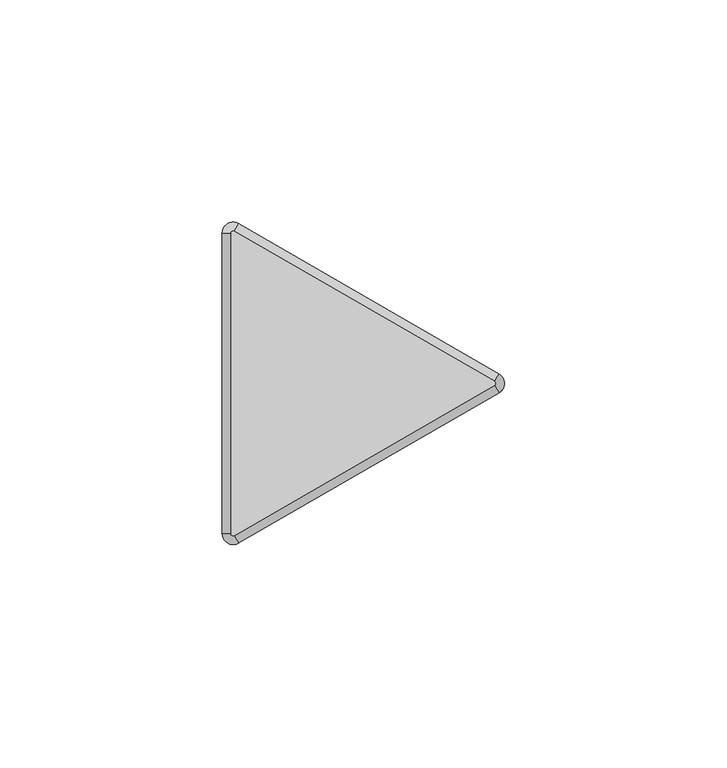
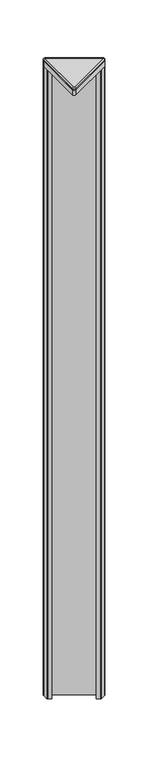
"""IFC4 building model written with IfcOpenShell, lengths in millimetres: furniture geometry, Steelcase - Answer Solution - Panel - 120deg Change-of-Height Trim - Thin : V Corner - 36H for 84H App."""

import ifcopenshell
import ifcopenshell.guid

model = None  # the IFC model being written
_history = None  # IfcOwnerHistory: only IFC2X3 demands one
_inside = {}  # id of a spatial element -> (the spatial element, [elements in it])
_under = {}  # id of a project, library or spatial element -> (it, [spatial elements below it])
_declared = {}  # id of a project -> (the project, [libraries it declares])
_typed = {}  # id of a type object -> (the type object, [elements of that type])
_made_of = {}  # id of a material, layer set ... -> (it, [elements and type objects made of it])


def new_model(schema):
    """Start an empty IFC model of exactly this schema.

    Asked for "IFC4X3", IfcOpenShell would pick the latest addendum, in which some entities
    have other attributes; the version numbers below select the first issue.
    IFC2X3 requires an IfcOwnerHistory on every rooted entity: one is made here for all.
    """
    global model, _history
    if schema == "IFC4X3":
        model = ifcopenshell.file(schema_version=(4, 3, 0, 0))
    else:
        model = ifcopenshell.file(schema=schema)
    _inside.clear()
    _under.clear()
    _declared.clear()
    _typed.clear()
    _made_of.clear()
    _history = None
    if model.schema == "IFC2X3":
        org = make("IfcOrganization", Name="unknown")
        user = make(
            "IfcPersonAndOrganization",
            ThePerson=make("IfcPerson", FamilyName="unknown"),
            TheOrganization=org,
        )
        app = make(
            "IfcApplication",
            ApplicationDeveloper=org,
            Version="unknown",
            ApplicationFullName="unknown",
            ApplicationIdentifier="unknown",
        )
        _history = make(
            "IfcOwnerHistory",
            OwningUser=user,
            OwningApplication=app,
            ChangeAction="ADDED",
            CreationDate=0,
        )
    return model


def make(cls, **values):
    """One entity of the class cls with the attributes given. An attribute that is None is left unset."""
    return model.create_entity(
        cls, **{name: value for name, value in values.items() if value is not None}
    )


def rooted(cls, **values):
    """An entity with a GlobalId (a new one), such as an element, a storey or a relation."""
    return make(cls, GlobalId=ifcopenshell.guid.new(), OwnerHistory=_history, **values)


def si_unit(unit_type, name, prefix=None):
    """IfcSIUnit, for example si_unit("LENGTHUNIT", "METRE", prefix="MILLI")."""
    return make("IfcSIUnit", UnitType=unit_type, Prefix=prefix, Name=name)


def assignment(units):
    """IfcUnitAssignment: the units of a project."""
    return None if units is None else make("IfcUnitAssignment", Units=units)


def point(xyz):
    """IfcCartesianPoint."""
    return None if xyz is None else make("IfcCartesianPoint", Coordinates=xyz)


def direction(xyz):
    """IfcDirection."""
    return None if xyz is None else make("IfcDirection", DirectionRatios=xyz)


def frame(location, z_axis=None, x_axis=None):
    """IfcAxis2Placement3D, a coordinate frame: its origin and axes. An axis left out is left unset."""
    return make(
        "IfcAxis2Placement3D",
        Location=point(location),
        Axis=direction(z_axis),
        RefDirection=direction(x_axis),
    )


def frame_2d(location, x_axis=None):
    """IfcAxis2Placement2D, a coordinate frame in the plane: its origin and x axis."""
    return make(
        "IfcAxis2Placement2D", Location=point(location), RefDirection=direction(x_axis)
    )


def origin():
    """The frame at (0, 0, 0) with its axes left unset."""
    return frame((0.0, 0.0, 0.0))


def place(relative_to, where):
    """IfcLocalPlacement: puts the frame where relative to a parent placement (None: the world)."""
    return make(
        "IfcLocalPlacement", PlacementRelTo=relative_to, RelativePlacement=where
    )


def context(
    kind, dimensions, precision=None, world=None, true_north=None, identifier=None
):
    """IfcGeometricRepresentationContext, for example the 3D "Model" context."""
    return make(
        "IfcGeometricRepresentationContext",
        ContextIdentifier=identifier,
        ContextType=kind,
        CoordinateSpaceDimension=dimensions,
        Precision=precision,
        WorldCoordinateSystem=world,
        TrueNorth=true_north,
    )


def project(units=None, contexts=None):
    """IfcProject with its units and contexts."""
    return rooted(
        "IfcProject",
        Name="project",
        RepresentationContexts=contexts,
        UnitsInContext=assignment(units),
    )


def spatial(cls, under=None, at=None, **own):
    """A site, building, storey or space (cls), placed at a placement, below another one or the project."""
    s = rooted(cls, ObjectPlacement=at, **own)
    if under is not None:
        _under.setdefault(under.id(), (under, []))[1].append(s)
    return s


def polyline(points):
    """IfcPolyline through the points."""
    return make("IfcPolyline", Points=[point(p) for p in points])


def circle_curve(where, radius):
    """IfcCircle in the frame where."""
    return make("IfcCircle", Position=where, Radius=radius)


def ellipse_curve(where, semi_axis1, semi_axis2):
    """IfcEllipse in the frame where."""
    return make(
        "IfcEllipse", Position=where, SemiAxis1=semi_axis1, SemiAxis2=semi_axis2
    )


def trimmed(basis, trim1, trim2, sense, master):
    """IfcTrimmedCurve: the piece of a basis curve between two trims."""
    return make(
        "IfcTrimmedCurve",
        BasisCurve=basis,
        Trim1=trim1,
        Trim2=trim2,
        SenseAgreement=sense,
        MasterRepresentation=master,
    )


def segment(curve, same_sense, transition):
    """IfcCompositeCurveSegment."""
    return make(
        "IfcCompositeCurveSegment",
        Transition=transition,
        SameSense=same_sense,
        ParentCurve=curve,
    )


def composite_curve(segments, self_intersect=None):
    """IfcCompositeCurve: segments joined end to end."""
    return make("IfcCompositeCurve", Segments=segments, SelfIntersect=self_intersect)


def outline(outer, holes=None, kind="AREA"):
    """IfcArbitraryClosedProfileDef: a profile drawn as a closed curve; with holes, ...WithVoids."""
    if holes is None:
        return make("IfcArbitraryClosedProfileDef", ProfileType=kind, OuterCurve=outer)
    return make(
        "IfcArbitraryProfileDefWithVoids",
        ProfileType=kind,
        OuterCurve=outer,
        InnerCurves=holes,
    )


def extrude(swept, where, along, depth):
    """IfcExtrudedAreaSolid: the profile swept, set in the frame where, extruded along a direction by depth."""
    return make(
        "IfcExtrudedAreaSolid",
        SweptArea=swept,
        Position=where,
        ExtrudedDirection=direction(along),
        Depth=depth,
    )


def shape(context_of_items, identifier, shape_type, items):
    """IfcShapeRepresentation: the items that make up one representation, for example the "Body"."""
    return make(
        "IfcShapeRepresentation",
        ContextOfItems=context_of_items,
        RepresentationIdentifier=identifier,
        RepresentationType=shape_type,
        Items=items,
    )


def source(mapping_origin, context_of_items, identifier, shape_type, items):
    """IfcRepresentationMap: a shape defined once, which mapped items show again and again."""
    return make(
        "IfcRepresentationMap",
        MappingOrigin=mapping_origin,
        MappedRepresentation=shape(context_of_items, identifier, shape_type, items),
    )


def transform(
    local_origin,
    x_axis=None,
    y_axis=None,
    z_axis=None,
    scale=None,
    scale2=None,
    scale3=None,
    uniform=True,
):
    """IfcCartesianTransformationOperator3D, or its non-uniform kind. x_axis, y_axis, z_axis: its Axis1, 2, 3."""
    if uniform:
        return make(
            "IfcCartesianTransformationOperator3D",
            Axis1=direction(x_axis),
            Axis2=direction(y_axis),
            LocalOrigin=point(local_origin),
            Scale=scale,
            Axis3=direction(z_axis),
        )
    return make(
        "IfcCartesianTransformationOperator3DnonUniform",
        Axis1=direction(x_axis),
        Axis2=direction(y_axis),
        LocalOrigin=point(local_origin),
        Scale=scale,
        Axis3=direction(z_axis),
        Scale2=scale2,
        Scale3=scale3,
    )


def mapped(mapping_source, mapping_target):
    """IfcMappedItem: shows the shape of a source again, moved by a transform."""
    return make(
        "IfcMappedItem", MappingSource=mapping_source, MappingTarget=mapping_target
    )


def made_of(thing, what):
    """Note that an element or type object is made of a material, layer set ...; save() writes the relation."""
    if what is not None:
        _made_of.setdefault(what.id(), (what, []))[1].append(thing)
    return thing


def element(
    cls,
    number,
    at=None,
    inside=None,
    cuts=None,
    type_object=None,
    material=None,
    context=None,
    identifier="Body",
    shape_type=None,
    held_by="IfcProductDefinitionShape",
    body=None,
    shapes=None,
    **own,
):
    """One element of the class cls, such as IfcWall. Its Tag is "e" and its number.

    at: its placement. inside: the storey or other place that contains it. cuts: it is an
    opening in that element (IfcRelVoidsElement). A single representation is given by context,
    identifier, shape_type and body (its items); several are given by shapes. held_by: the class
    of the entity that holds the representations. save() writes the other relations.
    """
    e = rooted(cls, Tag="e%d" % number, ObjectPlacement=at, **own)
    if body is not None:
        shapes = [shape(context, identifier, shape_type, body)]
    if shapes is not None:
        e.Representation = make(held_by, Representations=shapes)
    if inside is not None:
        _inside.setdefault(inside.id(), (inside, []))[1].append(e)
    if cuts is not None:
        rooted(
            "IfcRelVoidsElement", RelatingBuildingElement=cuts, RelatedOpeningElement=e
        )
    if type_object is not None:
        _typed.setdefault(type_object.id(), (type_object, []))[1].append(e)
    return made_of(e, material)


def aggregate(whole, parts):
    """IfcRelAggregates: a whole, such as a stair, and the parts it consists of."""
    return rooted("IfcRelAggregates", RelatingObject=whole, RelatedObjects=parts)


def save(model, path):
    """Write the relations noted so far, then the file.

    IfcRelAggregates (storeys below a building ...), IfcRelContainedInSpatialStructure (elements
    in a storey), IfcRelDefinesByType, IfcRelAssociatesMaterial and IfcRelDeclares: one each for
    every whole, place, type object, material and project.
    """
    for whole, parts in _under.values():
        aggregate(whole, parts)
    for where, things in _inside.values():
        rooted(
            "IfcRelContainedInSpatialStructure",
            RelatedElements=things,
            RelatingStructure=where,
        )
    for kind, things in _typed.values():
        rooted("IfcRelDefinesByType", RelatedObjects=things, RelatingType=kind)
    for what, things in _made_of.values():
        rooted("IfcRelAssociatesMaterial", RelatedObjects=things, RelatingMaterial=what)
    for by, libraries in _declared.values():
        rooted("IfcRelDeclares", RelatingContext=by, RelatedDefinitions=libraries)
    model.write(path)


def plane_surface(at):
    """IfcPlane: the flat surface through the origin of the frame at, square to its z axis."""
    return make("IfcPlane", Position=at)


def cylinder_surface(at, radius):
    """IfcCylindricalSurface: all points at the distance radius from the z axis of the frame at."""
    return make("IfcCylindricalSurface", Position=at, Radius=radius)


def revolved_surface(curve, axis_point, axis_direction):
    """IfcSurfaceOfRevolution: the curve turned about the line through axis_point along axis_direction."""
    return make(
        "IfcSurfaceOfRevolution",
        SweptCurve=make("IfcArbitraryOpenProfileDef", ProfileType="CURVE", Curve=curve),
        AxisPosition=make("IfcAxis1Placement", Location=point(axis_point), Axis=direction(axis_direction)),
    )


def advanced_brep(points, edges, surfaces, faces):
    """IfcAdvancedBrep: a solid bounded by faces that lie on surfaces and meet in shared edges.

    An edge is (start, end): straight between two places in points (the first is 0);
    or (start, end, curve); or (start, end, curve, False) where it runs against its curve.
    A face is (place in surfaces, loops), or (place, loops, False) where it looks against
    its surface's normal. A loop lists edges by number (the first is 1), with a minus sign
    where the edge is run from its end to its start. The first loop is the outer one.
    """
    corners = [point(p) for p in points]
    vertices = [make("IfcVertexPoint", VertexGeometry=c) for c in corners]
    made = []
    for start, end, *more in edges:
        made.append(
            make(
                "IfcEdgeCurve",
                EdgeStart=vertices[start],
                EdgeEnd=vertices[end],
                EdgeGeometry=more[0] if more else make("IfcPolyline", Points=[corners[start], corners[end]]),
                SameSense=more[1] if len(more) > 1 else True,
            )
        )
    hull = []
    for where, loops, *sense in faces:
        bounds = []
        for j, loop in enumerate(loops):
            ring = [make("IfcOrientedEdge", EdgeElement=made[abs(k) - 1], Orientation=k > 0) for k in loop]
            bounds.append(
                make(
                    "IfcFaceOuterBound" if j == 0 else "IfcFaceBound",
                    Bound=make("IfcEdgeLoop", EdgeList=ring),
                    Orientation=True,
                )
            )
        hull.append(make("IfcAdvancedFace", Bounds=bounds, FaceSurface=surfaces[where], SameSense=sense[0] if sense else True))
    return make("IfcAdvancedBrep", Outer=make("IfcClosedShell", CfsFaces=hull))


def furniture_9873993e(model_context):
    return source(origin(), model_context, "Body", "SolidModel", [
        advanced_brep(
        [(-10.518645, -37.3335529, 2138.0628978), (-14.2052101, -35.2051135, 2138.0628978), (-14.2052101, -35.2051135, 2137.1164663), (-10.518645, -37.3335529, 2137.1164663), (-11.46175, -35.7000471, 2139.95), (-12.319, -35.2051135, 2139.95), (-11.46175, -35.7000471, 2137.1164663), (-12.319, -35.2051135, 2137.1164663), (48.0429908, -3.5229767, 2137.1164663), (48.0429908, -3.5229767, 2138.0628978), (47.0998858, -1.8894709, 2139.95), (47.0998858, -1.8894709, 2137.1164663), (48.0429908, 0.733902, 2138.0628978), (48.0429908, 0.733902, 2137.1164663), (47.0998858, -0.8996038, 2139.95), (47.0998858, -0.8996038, 2137.1164663), (-10.518645, 34.5444782, 2137.1164663), (-14.2052101, 32.4160388, 2137.1164663), (-11.46175, 32.9109723, 2137.1164663), (-12.319, 32.4160388, 2137.1164663), (-10.518645, 34.5444782, 2138.0628978), (-11.46175, 32.9109723, 2139.95), (-14.2052101, 32.4160388, 2138.0628978), (-12.319, 32.4160388, 2139.95)],
        [
            (0, 1, circle_curve(frame((-11.7475, -35.2051135, 2138.0628978), z_axis=(0.0, 0.0, -1.0), x_axis=(-1.0, 0.0, 0.0)), 2.4577101)),
            (1, 2),
            (2, 3, circle_curve(frame((-11.7475, -35.2051135, 2137.1164663), z_axis=(0.0, 0.0, 1.0), x_axis=(-1.0, 0.0, 0.0)), 2.4577101)),
            (3, 0),
            (4, 5, circle_curve(frame((-11.7475, -35.2051135, 2139.95), z_axis=(0.0, 0.0, -1.0), x_axis=(-1.0, 0.0, 0.0)), 0.5715)),
            (5, 1, circle_curve(frame((-12.3181076, -35.2051135, 2138.0628978), z_axis=(0.0, -1.0, 0.0), x_axis=(1.0, 0.0, 0.0)), 1.8871024)),
            (0, 4, circle_curve(frame((-11.4621962, -35.6992743, 2138.0628978), z_axis=(-0.8660254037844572, -0.49999999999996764, 0.0), x_axis=(-0.49999999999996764, 0.8660254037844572, 0.0)), 1.8871024)),
            (6, 7, circle_curve(frame((-11.7475, -35.2051135, 2137.1164663), z_axis=(0.0, 0.0, -1.0), x_axis=(-1.0, 0.0, 0.0)), 0.5715)),
            (7, 5),
            (4, 6),
            (3, 8),
            (8, 9),
            (9, 0),
            (9, 10, circle_curve(frame((47.0994396, -1.8886981, 2138.0628978), z_axis=(-0.8660254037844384, -0.5000000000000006, 0.0), x_axis=(-0.5000000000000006, 0.8660254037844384, 0.0)), 1.8871024)),
            (10, 4),
            (10, 11),
            (11, 6),
            (12, 9, circle_curve(frame((46.8141358, -1.3945374, 2138.0628978), z_axis=(0.0, 0.0, -1.0), x_axis=(0.4999999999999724, -0.8660254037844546, 0.0)), 2.4577101)),
            (8, 13, circle_curve(frame((46.8141358, -1.3945374, 2137.1164663), z_axis=(0.0, 0.0, 1.0), x_axis=(0.4999999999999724, -0.8660254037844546, 0.0)), 2.4577101)),
            (13, 12),
            (14, 10, circle_curve(frame((46.8141358, -1.3945374, 2139.95), z_axis=(0.0, 0.0, -1.0), x_axis=(0.4999999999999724, -0.8660254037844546, 0.0)), 0.5715)),
            (12, 14, circle_curve(frame((47.0994396, -0.9003766, 2138.0628978), z_axis=(0.8660254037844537, -0.49999999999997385, 0.0), x_axis=(-0.49999999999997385, -0.8660254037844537, 0.0)), 1.8871024)),
            (15, 11, circle_curve(frame((46.8141358, -1.3945374, 2137.1164663), z_axis=(0.0, 0.0, -1.0), x_axis=(0.4999999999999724, -0.8660254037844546, 0.0)), 0.5715)),
            (14, 15),
            (16, 13),
            (2, 17),
            (17, 16, circle_curve(frame((-11.7475, 32.4160388, 2137.1164663), z_axis=(0.0, 0.0, -1.0), x_axis=(0.500000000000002, 0.8660254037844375, 0.0)), 2.4577101)),
            (15, 18),
            (18, 19, circle_curve(frame((-11.7475, 32.4160388, 2137.1164663), z_axis=(0.0, 0.0, 1.0), x_axis=(0.500000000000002, 0.8660254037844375, 0.0)), 0.5715)),
            (19, 7),
            (16, 20),
            (20, 12),
            (20, 21, circle_curve(frame((-11.4621962, 32.9101995, 2138.0628978), z_axis=(0.8660254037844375, -0.5000000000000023, 0.0), x_axis=(-0.5000000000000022, -0.8660254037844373, 0.0)), 1.8871024)),
            (21, 14),
            (21, 18),
            (22, 20, circle_curve(frame((-11.7475, 32.4160388, 2138.0628978), z_axis=(0.0, 0.0, -1.0), x_axis=(0.500000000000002, 0.8660254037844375, 0.0)), 2.4577101)),
            (17, 22),
            (23, 21, circle_curve(frame((-11.7475, 32.4160388, 2139.95), z_axis=(0.0, 0.0, -1.0), x_axis=(0.500000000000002, 0.8660254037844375, 0.0)), 0.5715)),
            (22, 23, circle_curve(frame((-12.3181076, 32.4160388, 2138.0628978), z_axis=(0.0, 1.0, 0.0), x_axis=(1.0, 0.0, 0.0)), 1.8871024)),
            (23, 19),
            (1, 22),
            (5, 23),
        ],
        [
            cylinder_surface(frame((-11.7475, -35.2051135, 0.0), z_axis=(0.0, 0.0, 1.0), x_axis=(-1.0, 0.0, 0.0)), 2.4577101),
            revolved_surface(trimmed(ellipse_curve(frame((-12.3181076, -35.2051135, 2138.0628978), z_axis=(0.0, 1.0, 0.0), x_axis=(1.0, 0.0, 0.0)), 1.8871024, 1.8871024), [point((-14.2052101, -35.2051135, 2138.0628978))], [point((-12.319, -35.2051135, 2139.95))], True, "CARTESIAN"), (-11.7475, -35.2051135, 0.0), (0.0, 0.0, 1.0)),
            revolved_surface(polyline([(-12.319, -35.2051135, 2139.95), (-12.319, -35.2051135, 2137.1164663)]), (-11.7475, -35.2051135, 0.0), (0.0, 0.0, 1.0)),
            plane_surface(frame((-10.518645, -37.3335529, 2137.1164663), z_axis=(0.49999999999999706, -0.8660254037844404, 0.0), x_axis=(0.8660254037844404, 0.49999999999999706, 0.0))),
            cylinder_surface(frame((-11.4621962, -35.6992743, 2138.0628978), z_axis=(-0.8660254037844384, -0.5000000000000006, 0.0), x_axis=(-0.5000000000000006, 0.8660254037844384, 0.0)), 1.8871024),
            plane_surface(frame((-11.46175, -35.7000471, 2139.95), z_axis=(-0.500000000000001, 0.8660254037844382, 0.0), x_axis=(0.8660254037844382, 0.500000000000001, 0.0))),
            cylinder_surface(frame((46.8141358, -1.3945374, 0.0), z_axis=(0.0, 0.0, 1.0), x_axis=(0.4999999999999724, -0.8660254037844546, 0.0)), 2.4577101),
            revolved_surface(trimmed(ellipse_curve(frame((47.0994396, -1.8886981, 2138.0628978), z_axis=(-0.8660254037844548, -0.499999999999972, 0.0), x_axis=(-0.499999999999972, 0.8660254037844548, 0.0)), 1.8871024, 1.8871024), [point((48.0429908, -3.5229767, 2138.0628978))], [point((47.0998858, -1.8894709, 2139.95))], True, "CARTESIAN"), (46.8141358, -1.3945374, 0.0), (0.0, 0.0, 1.0)),
            revolved_surface(polyline([(47.09988579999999, -1.8894709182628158, 2139.95), (47.09988579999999, -1.8894709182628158, 2137.1164663)]), (46.8141358, -1.3945374, 0.0), (0.0, 0.0, 1.0)),
            plane_surface(frame((47.0998858, -0.8996038, 2137.1164663), z_axis=(0.0, 0.0, -1.0), x_axis=(-0.8660254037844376, 0.5000000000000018, 0.0))),
            plane_surface(frame((48.0429908, 0.733902, 2137.1164663), z_axis=(0.49999999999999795, 0.8660254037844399, 0.0), x_axis=(-0.8660254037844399, 0.49999999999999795, 0.0))),
            cylinder_surface(frame((47.0994396, -0.9003766, 2138.0628978), z_axis=(0.8660254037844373, -0.5000000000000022, 0.0), x_axis=(-0.5000000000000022, -0.8660254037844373, 0.0)), 1.8871024),
            plane_surface(frame((47.0998858, -0.8996038, 2139.95), z_axis=(-0.5000000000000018, -0.8660254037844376, 0.0), x_axis=(-0.8660254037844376, 0.5000000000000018, 0.0))),
            cylinder_surface(frame((-11.7475, 32.4160388, 0.0), z_axis=(0.0, 0.0, 1.0), x_axis=(0.500000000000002, 0.8660254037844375, 0.0)), 2.4577101),
            revolved_surface(trimmed(ellipse_curve(frame((-11.4621962, 32.9101995, 2138.0628978), z_axis=(0.866025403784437, -0.5000000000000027, 0.0), x_axis=(-0.5000000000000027, -0.866025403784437, 0.0)), 1.8871024, 1.8871024), [point((-10.518645, 34.5444782, 2138.0628978))], [point((-11.46175, 32.9109723, 2139.95))], True, "CARTESIAN"), (-11.7475, 32.4160388, 0.0), (0.0, 0.0, 1.0)),
            revolved_surface(polyline([(-11.461749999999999, 32.91097231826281, 2139.95), (-11.461749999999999, 32.91097231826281, 2137.1164663)]), (-11.7475, 32.4160388, 0.0), (0.0, 0.0, 1.0)),
            plane_surface(frame((-14.2052101, 32.4160388, 2137.1164663), z_axis=(-1.0, 0.0, 0.0), x_axis=(0.0, -1.0, 0.0))),
            cylinder_surface(frame((-12.3181076, 32.4160388, 2138.0628978), z_axis=(0.0, 1.0, 0.0), x_axis=(1.0, 0.0, 0.0)), 1.8871024),
            plane_surface(frame((-12.319, 32.4160388, 2139.95), z_axis=(1.0, 0.0, 0.0), x_axis=(0.0, -1.0, 0.0))),
        ],
        [
            (0, [[1, 2, 3, 4]]),
            (1, [[5, 6, -1, 7]]),
            (2, [[8, 9, -5, 10]]),
            (3, [[-4, 11, 12, 13]]),
            (4, [[-7, -13, 14, 15]]),
            (5, [[-10, -15, 16, 17]]),
            (6, [[18, -12, 19, 20]]),
            (7, [[21, -14, -18, 22]]),
            (8, [[23, -16, -21, 24]]),
            (9, [[25, -19, -11, -3, 26, 27], [-8, -17, -23, 28, 29, 30]]),
            (10, [[-20, -25, 31, 32]]),
            (11, [[-22, -32, 33, 34]]),
            (12, [[-24, -34, 35, -28]]),
            (13, [[36, -31, -27, 37]]),
            (14, [[38, -33, -36, 39]]),
            (15, [[-29, -35, -38, 40]]),
            (16, [[-37, -26, -2, 41]]),
            (17, [[-39, -41, -6, 42]]),
            (18, [[-40, -42, -9, -30]]),
        ],
    ),
        extrude(outline(composite_curve([segment(trimmed(circle_curve(frame_2d((46.8261011, -1.3945374)), 0.5655173), [point((47.1088598, -0.904785))], [point((47.1088598, -1.8842897))], False, "CARTESIAN"), True, "CONTINUOUS"), segment(polyline([(47.1088598, -1.8842897), (-11.4505119, -35.6935587)]), True, "CONTINUOUS"), segment(trimmed(circle_curve(frame_2d((-11.7400079, -35.1921369)), 0.5789921), [point((-11.4505119, -35.6935587))], [point((-12.319, -35.1921369))], False, "CARTESIAN"), True, "CONTINUOUS"), segment(polyline([(-12.319, -35.1921369), (-12.319, 32.3985888)]), True, "CONTINUOUS"), segment(trimmed(circle_curve(frame_2d((-11.7374252, 32.3985888)), 0.5815748), [point((-12.319, 32.3985888))], [point((-11.4466378, 32.9022473))], False, "CARTESIAN"), True, "CONTINUOUS"), segment(polyline([(-11.4466378, 32.9022473), (47.1088598, -0.904785)]), True, "CONTINUOUS")], self_intersect=False)), frame((0.0, 0.0, 2137.1164663), z_axis=(0.0, 0.0, 1.0), x_axis=(1.0, 0.0, 0.0)), (0.0, 0.0, 1.0), 2.8335337),
        extrude(outline(composite_curve([segment(trimmed(circle_curve(frame_2d((47.9608454, -1.3945374)), 1.2935425), [point((48.6076166, -0.2742967))], [point((48.6076166, -2.514778))], False, "CARTESIAN"), True, "CONTINUOUS"), segment(polyline([(48.6076166, -2.514778), (41.722656, -6.4898119)]), True, "CONTINUOUS"), segment(trimmed(circle_curve(frame_2d((41.0991304, -5.4098338)), 1.2470513), [point((41.722656, -6.4898119))], [point((40.4756048, -6.4898119))], False, "CARTESIAN"), True, "CONTINUOUS"), segment(polyline([(40.4756048, -6.4898119), (36.3239304, -4.0928416), (36.7811304, -3.300948), (41.0991304, -5.7939464), (47.3502407, -2.1848662)]), True, "CONTINUOUS"), segment(trimmed(circle_curve(frame_2d((46.8939441, -1.3945374)), 0.9125932), [point((47.3502407, -2.1848662))], [point((47.3502407, -0.6042085))], True, "CARTESIAN"), True, "CONTINUOUS"), segment(polyline([(47.3502407, -0.6042085), (-11.3312768, 33.2755814)]), True, "CONTINUOUS"), segment(trimmed(circle_curve(frame_2d((-11.7875179, 32.4853487)), 0.9124821), [point((-11.3312768, 33.2755814))], [point((-12.7, 32.4853487))], True, "CARTESIAN"), True, "CONTINUOUS"), segment(polyline([(-12.7, 32.4853487), (-12.7, 25.266996), (-8.382, 22.7739975), (-8.8392, 21.9821039), (-12.9583282, 24.3602837)]), True, "CONTINUOUS"), segment(trimmed(circle_curve(frame_2d((-12.3022565, 25.4966333)), 1.3121435), [point((-12.9583282, 24.3602837))], [point((-13.6144, 25.4966333))], False, "CARTESIAN"), True, "CONTINUOUS"), segment(polyline([(-13.6144, 25.4966333), (-13.6144, 33.3957138)]), True, "CONTINUOUS"), segment(trimmed(circle_curve(frame_2d((-12.3131174, 33.3957138)), 1.3012826), [point((-13.6144, 33.3957138))], [point((-11.6624761, 34.5226576))], False, "CARTESIAN"), True, "CONTINUOUS"), segment(polyline([(-11.6624761, 34.5226576), (48.6076166, -0.2742967)]), True, "CONTINUOUS")], self_intersect=False)), frame((0.0, 0.0, 1225.55), z_axis=(0.0, 0.0, 1.0), x_axis=(1.0, 0.0, 0.0)), (0.0, 0.0, 1.0), 904.24),
        extrude(outline(composite_curve([segment(trimmed(circle_curve(frame_2d((46.8140443, -1.3945374)), 2.4577558), [point((48.0429222, 0.7339416))], [point((48.0429222, -3.5230163))], False, "CARTESIAN"), True, "CONTINUOUS"), segment(polyline([(48.0429222, -3.5230163), (-10.518058, -37.333214)]), True, "CONTINUOUS"), segment(trimmed(circle_curve(frame_2d((-11.7471087, -35.2044357)), 2.4581014), [point((-10.518058, -37.333214))], [point((-14.2052101, -35.2044357))], False, "CARTESIAN"), True, "CONTINUOUS"), segment(polyline([(-14.2052101, -35.2044357), (-14.2052101, 32.4160388)]), True, "CONTINUOUS"), segment(trimmed(circle_curve(frame_2d((-11.7475, 32.4160388)), 2.4577101), [point((-14.2052101, 32.4160388))], [point((-10.518645, 34.5444782))], False, "CARTESIAN"), True, "CONTINUOUS"), segment(polyline([(-10.518645, 34.5444782), (48.0429222, 0.7339416)]), True, "CONTINUOUS")], self_intersect=False)), frame((0.0, 0.0, 2129.79), z_axis=(0.0, 0.0, 1.0), x_axis=(1.0, 0.0, 0.0)), (0.0, 0.0, 1.0), 7.3264663),
    ])


if __name__ == "__main__":
    model = new_model("IFC4")
    model_context = context("Model", 3, world=origin())
    ifc_project = project(units=[si_unit("LENGTHUNIT", "METRE", prefix="MILLI")], contexts=[model_context])
    site = spatial("IfcSite", under=ifc_project)
    building = spatial("IfcBuilding", under=site)
    placement = place(None, origin())
    furniture_shape = furniture_9873993e(model_context)
    element("IfcFurniture", 1, ObjectType="Steelcase - Answer Solution - Panel - 120deg Change-of-Height Trim - Thin : V Corner - 36H for 84H App", at=placement, inside=building, context=model_context, shape_type="MappedRepresentation", body=[
        mapped(furniture_shape, transform((0.0, 0.0, 0.0), x_axis=(1.0, 0.0, 0.0), y_axis=(0.0, 1.0, 0.0), z_axis=(0.0, 0.0, 1.0))),
    ])
    save(model, "model.ifc")
